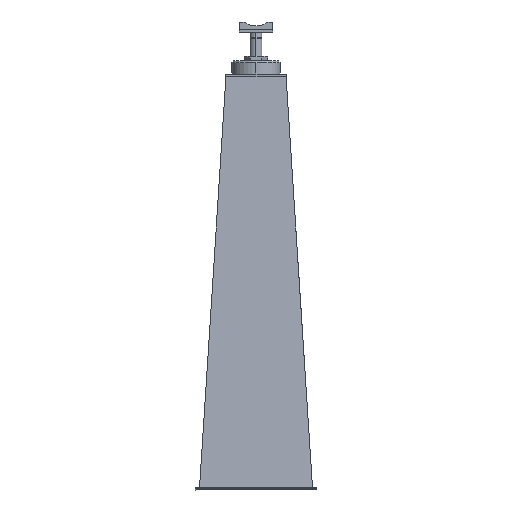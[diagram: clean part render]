
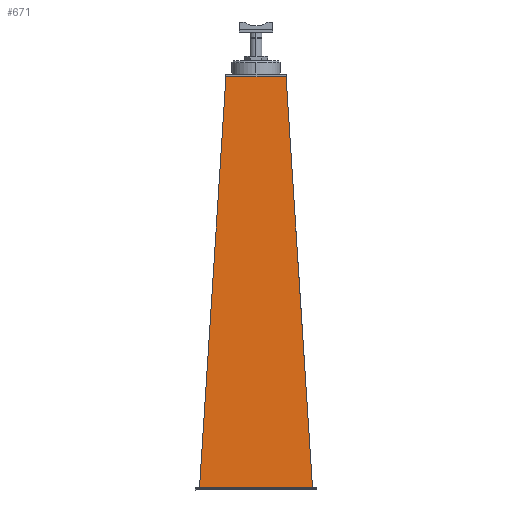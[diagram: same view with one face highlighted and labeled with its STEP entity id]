
A CAD part, left-side view. The second image highlights one B-rep face of the part: STEP entity #671.
In plain terms, the highlighted planar face has unit normal (-0.998, 0, 0.064).
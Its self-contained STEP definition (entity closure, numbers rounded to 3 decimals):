
#671=ADVANCED_FACE('',(#1362),#1363,.F.);
#1362=FACE_OUTER_BOUND('',#2113,.T.);
#1363=PLANE('',#2114);
#2113=EDGE_LOOP('',(#4137,#4138,#4139,#4140));
#2114=AXIS2_PLACEMENT_3D('',#4141,#4142,#4143);
#4137=ORIENTED_EDGE('',*,*,#5088,.T.);
#4138=ORIENTED_EDGE('',*,*,#4846,.F.);
#4139=ORIENTED_EDGE('',*,*,#5108,.F.);
#4140=ORIENTED_EDGE('',*,*,#5104,.T.);
#4141=CARTESIAN_POINT('',(383.461,402.745,387.968));
#4142=DIRECTION('',(0.998,0.,-0.064));
#4143=DIRECTION('',(0.,-1.0,0.));
#4846=EDGE_CURVE('',#5853,#5848,#5855,.T.);
#5088=EDGE_CURVE('',#6173,#5848,#6174,.T.);
#5104=EDGE_CURVE('',#6195,#6173,#6196,.T.);
#5108=EDGE_CURVE('',#6195,#5853,#6201,.T.);
#5848=VERTEX_POINT('',#7573);
#5853=VERTEX_POINT('',#7580);
#5855=LINE('',#7583,#7584);
#6173=VERTEX_POINT('',#8161);
#6174=LINE('',#8162,#8163);
#6195=VERTEX_POINT('',#8194);
#6196=LINE('',#8195,#8196);
#6201=LINE('',#8203,#8204);
#7573=CARTESIAN_POINT('',(323.642,339.932,-541.225));
#7580=CARTESIAN_POINT('',(383.449,399.739,387.775));
#7583=CARTESIAN_POINT('',(383.74,400.031,392.309));
#7584=VECTOR('',#8742,1.);
#8161=CARTESIAN_POINT('',(323.642,595.558,-541.225));
#8162=CARTESIAN_POINT('',(323.642,435.245,-541.225));
#8163=VECTOR('',#8914,1.0);
#8194=CARTESIAN_POINT('',(383.449,535.751,387.775));
#8195=CARTESIAN_POINT('',(383.74,535.46,392.309));
#8196=VECTOR('',#8925,1.);
#8203=CARTESIAN_POINT('',(383.449,435.245,387.775));
#8204=VECTOR('',#8928,1.0);
#8742=DIRECTION('',(-0.064,-0.064,-0.996));
#8914=DIRECTION('',(0.,-1.0,0.));
#8925=DIRECTION('',(-0.064,0.064,-0.996));
#8928=DIRECTION('',(0.,-1.0,0.));
